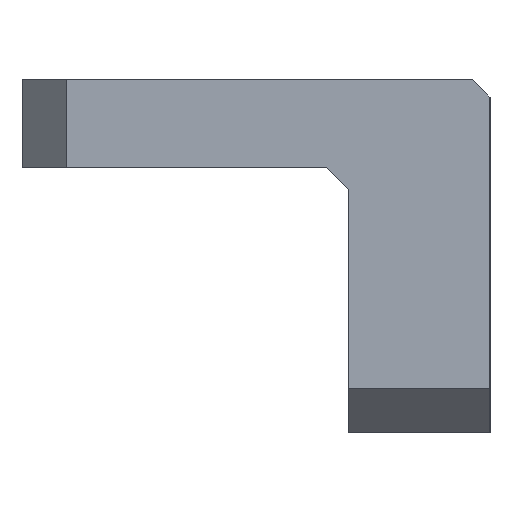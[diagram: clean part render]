
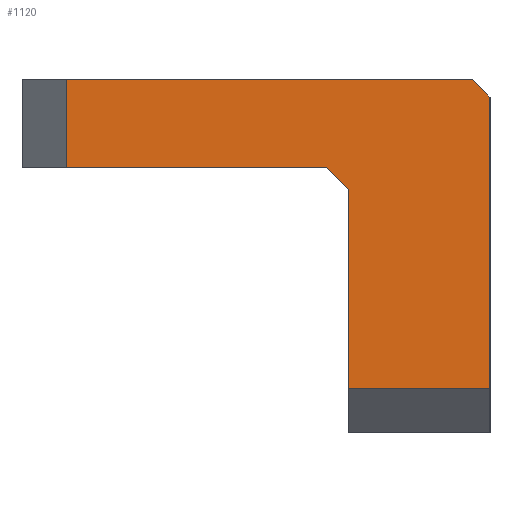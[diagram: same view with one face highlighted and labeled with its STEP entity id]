
A CAD part, left-side view. The second image highlights one B-rep face of the part: STEP entity #1120.
In plain terms, the highlighted planar face has unit normal (-1, 0, 0).
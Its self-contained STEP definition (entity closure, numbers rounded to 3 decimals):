
#45 = EDGE_CURVE ( 'NONE', #1576, #1789, #1057, .T. ) ;
#51 = AXIS2_PLACEMENT_3D ( 'NONE', #120, #146, #79 ) ;
#61 = FACE_OUTER_BOUND ( 'NONE', #1773, .T. ) ;
#66 = CARTESIAN_POINT ( 'NONE',  ( -60., 16., -40. ) ) ;
#79 = DIRECTION ( 'NONE',  ( 0., 0., -1. ) ) ;
#90 = EDGE_CURVE ( 'NONE', #1576, #336, #2248, .T. ) ;
#96 = PLANE ( 'NONE',  #51 ) ;
#101 = VERTEX_POINT ( 'NONE', #2177 ) ;
#115 = VECTOR ( 'NONE', #209, 1000. ) ;
#120 = CARTESIAN_POINT ( 'NONE',  ( -60., 0., 0. ) ) ;
#140 = ORIENTED_EDGE ( 'NONE', *, *, #399, .F. ) ;
#146 = DIRECTION ( 'NONE',  ( 1., 0., 0. ) ) ;
#163 = CARTESIAN_POINT ( 'NONE',  ( -60., 14.25, -14.25 ) ) ;
#179 = VERTEX_POINT ( 'NONE', #1395 ) ;
#209 = DIRECTION ( 'NONE',  ( 0., -0.707, -0.707 ) ) ;
#283 = VERTEX_POINT ( 'NONE', #1573 ) ;
#296 = EDGE_CURVE ( 'NONE', #2088, #283, #2068, .T. ) ;
#317 = LINE ( 'NONE', #66, #2131 ) ;
#336 = VERTEX_POINT ( 'NONE', #1652 ) ;
#399 = EDGE_CURVE ( 'NONE', #101, #336, #759, .T. ) ;
#454 = LINE ( 'NONE', #1964, #1107 ) ;
#478 = ORIENTED_EDGE ( 'NONE', *, *, #45, .F. ) ;
#488 = LINE ( 'NONE', #163, #115 ) ;
#575 = ORIENTED_EDGE ( 'NONE', *, *, #296, .T. ) ;
#584 = VECTOR ( 'NONE', #937, 1000. ) ;
#617 = ORIENTED_EDGE ( 'NONE', *, *, #1184, .T. ) ;
#759 = LINE ( 'NONE', #1723, #1111 ) ;
#782 = VECTOR ( 'NONE', #1991, 1000. ) ;
#817 = CARTESIAN_POINT ( 'NONE',  ( -60., 0., -2. ) ) ;
#875 = ORIENTED_EDGE ( 'NONE', *, *, #1412, .F. ) ;
#900 = VERTEX_POINT ( 'NONE', #817 ) ;
#904 = VECTOR ( 'NONE', #1591, 1000. ) ;
#937 = DIRECTION ( 'NONE',  ( 0., 0., -1. ) ) ;
#1057 = LINE ( 'NONE', #2062, #782 ) ;
#1107 = VECTOR ( 'NONE', #1922, 1000. ) ;
#1111 = VECTOR ( 'NONE', #1724, 1000. ) ;
#1120 = ADVANCED_FACE ( 'NONE', ( #61 ), #96, .F. ) ;
#1184 = EDGE_CURVE ( 'NONE', #101, #179, #488, .T. ) ;
#1228 = ORIENTED_EDGE ( 'NONE', *, *, #1359, .T. ) ;
#1253 = DIRECTION ( 'NONE',  ( 0., 0., -1. ) ) ;
#1359 = EDGE_CURVE ( 'NONE', #900, #1789, #454, .T. ) ;
#1373 = ORIENTED_EDGE ( 'NONE', *, *, #90, .T. ) ;
#1395 = CARTESIAN_POINT ( 'NONE',  ( -60., 16., -12.5 ) ) ;
#1412 = EDGE_CURVE ( 'NONE', #900, #283, #1702, .T. ) ;
#1458 = CARTESIAN_POINT ( 'NONE',  ( -60., 48., 0. ) ) ;
#1560 = CARTESIAN_POINT ( 'NONE',  ( -60., 48., 0. ) ) ;
#1573 = CARTESIAN_POINT ( 'NONE',  ( -60., 0., -35. ) ) ;
#1576 = VERTEX_POINT ( 'NONE', #1560 ) ;
#1584 = EDGE_CURVE ( 'NONE', #2088, #179, #317, .T. ) ;
#1590 = CARTESIAN_POINT ( 'NONE',  ( -60., 0., -35. ) ) ;
#1591 = DIRECTION ( 'NONE',  ( 0., -1., 0. ) ) ;
#1652 = CARTESIAN_POINT ( 'NONE',  ( -60., 48., -10. ) ) ;
#1702 = LINE ( 'NONE', #2291, #2270 ) ;
#1723 = CARTESIAN_POINT ( 'NONE',  ( -60., 16., -10. ) ) ;
#1724 = DIRECTION ( 'NONE',  ( 0., 1., 0. ) ) ;
#1763 = CARTESIAN_POINT ( 'NONE',  ( -60., 16., -35. ) ) ;
#1773 = EDGE_LOOP ( 'NONE', ( #875, #1228, #478, #1373, #140, #617, #2167, #575 ) ) ;
#1789 = VERTEX_POINT ( 'NONE', #2036 ) ;
#1867 = DIRECTION ( 'NONE',  ( 0., 0., 1. ) ) ;
#1922 = DIRECTION ( 'NONE',  ( 0., 0.707, 0.707 ) ) ;
#1964 = CARTESIAN_POINT ( 'NONE',  ( -60., 0., -2. ) ) ;
#1991 = DIRECTION ( 'NONE',  ( 0., -1., 0. ) ) ;
#2036 = CARTESIAN_POINT ( 'NONE',  ( -60., 2., 0. ) ) ;
#2062 = CARTESIAN_POINT ( 'NONE',  ( -60., 53., 0. ) ) ;
#2068 = LINE ( 'NONE', #1590, #904 ) ;
#2088 = VERTEX_POINT ( 'NONE', #1763 ) ;
#2131 = VECTOR ( 'NONE', #1867, 1000. ) ;
#2167 = ORIENTED_EDGE ( 'NONE', *, *, #1584, .F. ) ;
#2177 = CARTESIAN_POINT ( 'NONE',  ( -60., 18.5, -10. ) ) ;
#2248 = LINE ( 'NONE', #1458, #584 ) ;
#2270 = VECTOR ( 'NONE', #1253, 1000. ) ;
#2291 = CARTESIAN_POINT ( 'NONE',  ( -60., 0., 0. ) ) ;
